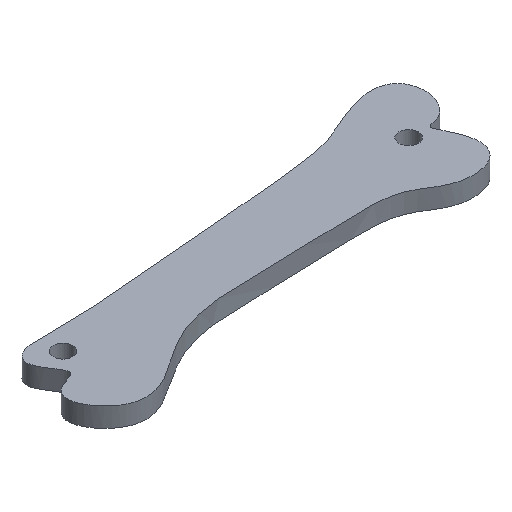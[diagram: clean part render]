
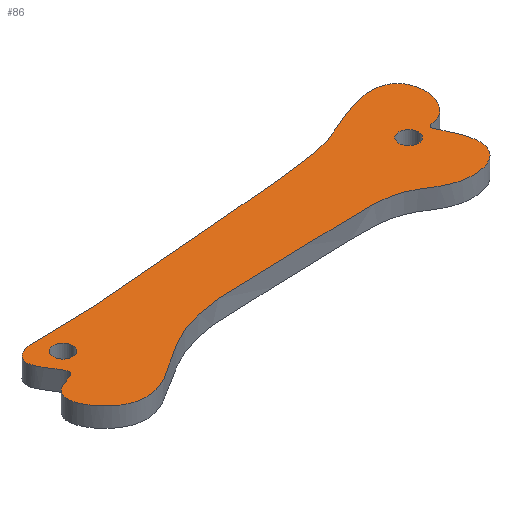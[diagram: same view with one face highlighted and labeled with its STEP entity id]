
A CAD part, isometric view. The second image highlights one B-rep face of the part: STEP entity #86.
In plain terms, the highlighted planar face has unit normal (0, 0, 1).
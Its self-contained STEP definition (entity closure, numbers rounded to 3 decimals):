
#15=FACE_BOUND('',#33,.T.);
#16=FACE_BOUND('',#34,.T.);
#19=PLANE('',#108);
#22=(
BOUNDED_CURVE()
B_SPLINE_CURVE(5,(#417,#418,#419,#420,#421,#422,#423,#424,#425,#426,#427,
#428,#429,#430,#431,#432,#433,#434,#435,#436,#437,#438,#439,#440,#441,#442,
#443,#444,#445,#446,#447,#448,#449,#450,#451,#452,#453,#454,#455,#456,#457,
#458,#459,#460,#461,#462,#463,#464,#465,#466,#467,#468,#469,#470,#471,#472,
#473,#474,#475,#476,#477,#478,#479,#480,#481,#482,#483,#484,#485,#486,#487,
#488,#489,#490,#491,#492,#493,#494,#495,#496,#497,#498,#499,#500,#501,#502,
#503,#504,#505,#506),.UNSPECIFIED.,.T.,.F.)
B_SPLINE_CURVE_WITH_KNOTS((6,1,1,1,1,1,1,1,1,1,1,1,1,1,1,1,1,1,1,1,1,1,
1,1,1,1,1,1,1,1,1,1,1,1,1,1,1,1,1,1,1,1,1,1,1,1,1,1,1,1,1,1,1,1,1,1,1,1,
1,1,1,1,1,1,1,1,1,1,1,1,1,1,1,1,1,1,1,1,1,1,1,1,1,1,1,6),(-1.,-0.988,
-0.976,-0.965,-0.953,-0.941,
-0.929,-0.918,-0.906,-0.894,
-0.882,-0.871,-0.859,-0.847,
-0.835,-0.824,-0.812,-0.8,
-0.788,-0.776,-0.765,-0.753,
-0.741,-0.729,-0.718,-0.706,
-0.694,-0.682,-0.671,-0.659,
-0.647,-0.635,-0.624,-0.612,
-0.6,-0.588,-0.576,-0.565,-0.553,
-0.541,-0.529,-0.518,-0.506,
-0.494,-0.482,-0.471,-0.459,
-0.447,-0.435,-0.424,-0.412,
-0.4,-0.388,-0.376,-0.365,-0.353,
-0.341,-0.329,-0.318,-0.306,
-0.294,-0.282,-0.271,-0.259,
-0.247,-0.235,-0.224,-0.212,
-0.2,-0.188,-0.176,-0.165,-0.153,
-0.141,-0.129,-0.118,-0.106,
-0.094,-0.082,-0.071,-0.059,
-0.047,-0.035,-0.024,-0.012,
0.),.UNSPECIFIED.)
CURVE()
GEOMETRIC_REPRESENTATION_ITEM()
RATIONAL_B_SPLINE_CURVE((1.,1.,1.,1.,1.,1.,1.,1.,1.,1.,1.,1.,1.,1.,1.,1.,
1.,1.,1.,1.,1.,1.,1.,1.,1.,1.,1.,1.,1.,1.,1.,1.,1.,1.,1.,1.,1.,1.,1.,1.,
1.,1.,1.,1.,1.,1.,1.,1.,1.,1.,1.,1.,1.,1.,1.,1.,1.,1.,1.,1.,1.,1.,1.,1.,
1.,1.,1.,1.,1.,1.,1.,1.,1.,1.,1.,1.,1.,1.,1.,1.,1.,1.,1.,1.,1.,1.,1.,1.,
1.,1.))
REPRESENTATION_ITEM('')
);
#27=FACE_OUTER_BOUND('',#32,.T.);
#32=EDGE_LOOP('',(#75));
#33=EDGE_LOOP('',(#76));
#34=EDGE_LOOP('',(#77));
#44=CIRCLE('',#103,0.75);
#46=CIRCLE('',#106,0.75);
#48=VERTEX_POINT('',#133);
#50=VERTEX_POINT('',#139);
#53=VERTEX_POINT('',#415);
#54=EDGE_CURVE('',#48,#48,#44,.T.);
#57=EDGE_CURVE('',#50,#50,#46,.T.);
#62=EDGE_CURVE('',#53,#53,#22,.T.);
#75=ORIENTED_EDGE('',*,*,#62,.T.);
#76=ORIENTED_EDGE('',*,*,#57,.T.);
#77=ORIENTED_EDGE('',*,*,#54,.T.);
#86=ADVANCED_FACE('',(#27,#15,#16),#19,.T.);
#103=AXIS2_PLACEMENT_3D('',#134,#114,#115);
#106=AXIS2_PLACEMENT_3D('',#140,#121,#122);
#108=AXIS2_PLACEMENT_3D('',#507,#127,#128);
#114=DIRECTION('center_axis',(0.,0.,-1.));
#115=DIRECTION('ref_axis',(1.,0.,0.));
#121=DIRECTION('center_axis',(0.,0.,-1.));
#122=DIRECTION('ref_axis',(1.,0.,0.));
#127=DIRECTION('center_axis',(0.,0.,1.));
#128=DIRECTION('ref_axis',(1.,0.,0.));
#133=CARTESIAN_POINT('',(94.376,-12.246,1.5));
#134=CARTESIAN_POINT('Origin',(95.126,-12.246,1.5));
#139=CARTESIAN_POINT('',(66.849,-13.176,1.5));
#140=CARTESIAN_POINT('Origin',(67.599,-13.176,1.5));
#415=CARTESIAN_POINT('',(66.432,-14.952,1.5));
#417=CARTESIAN_POINT('Ctrl Pts',(66.432,-14.952,1.5));
#418=CARTESIAN_POINT('Ctrl Pts',(66.397,-15.005,1.5));
#419=CARTESIAN_POINT('Ctrl Pts',(66.291,-15.098,1.5));
#420=CARTESIAN_POINT('Ctrl Pts',(66.031,-15.203,1.5));
#421=CARTESIAN_POINT('Ctrl Pts',(65.534,-15.325,1.5));
#422=CARTESIAN_POINT('Ctrl Pts',(64.913,-15.599,1.5));
#423=CARTESIAN_POINT('Ctrl Pts',(64.542,-16.116,1.5));
#424=CARTESIAN_POINT('Ctrl Pts',(64.547,-16.871,1.5));
#425=CARTESIAN_POINT('Ctrl Pts',(64.926,-17.748,1.5));
#426=CARTESIAN_POINT('Ctrl Pts',(65.606,-18.582,1.5));
#427=CARTESIAN_POINT('Ctrl Pts',(66.475,-19.207,1.5));
#428=CARTESIAN_POINT('Ctrl Pts',(67.429,-19.502,1.5));
#429=CARTESIAN_POINT('Ctrl Pts',(68.405,-19.444,1.5));
#430=CARTESIAN_POINT('Ctrl Pts',(69.376,-19.079,1.5));
#431=CARTESIAN_POINT('Ctrl Pts',(70.338,-18.497,1.5));
#432=CARTESIAN_POINT('Ctrl Pts',(71.309,-17.812,1.5));
#433=CARTESIAN_POINT('Ctrl Pts',(72.311,-17.136,1.5));
#434=CARTESIAN_POINT('Ctrl Pts',(73.371,-16.555,1.5));
#435=CARTESIAN_POINT('Ctrl Pts',(74.508,-16.11,1.5));
#436=CARTESIAN_POINT('Ctrl Pts',(75.734,-15.808,1.5));
#437=CARTESIAN_POINT('Ctrl Pts',(77.056,-15.632,1.5));
#438=CARTESIAN_POINT('Ctrl Pts',(78.471,-15.549,1.5));
#439=CARTESIAN_POINT('Ctrl Pts',(79.969,-15.517,1.5));
#440=CARTESIAN_POINT('Ctrl Pts',(81.53,-15.499,1.5));
#441=CARTESIAN_POINT('Ctrl Pts',(83.124,-15.464,1.5));
#442=CARTESIAN_POINT('Ctrl Pts',(84.711,-15.406,1.5));
#443=CARTESIAN_POINT('Ctrl Pts',(86.24,-15.337,1.5));
#444=CARTESIAN_POINT('Ctrl Pts',(87.663,-15.285,1.5));
#445=CARTESIAN_POINT('Ctrl Pts',(88.935,-15.281,1.5));
#446=CARTESIAN_POINT('Ctrl Pts',(90.028,-15.356,1.5));
#447=CARTESIAN_POINT('Ctrl Pts',(90.932,-15.531,1.5));
#448=CARTESIAN_POINT('Ctrl Pts',(91.666,-15.811,1.5));
#449=CARTESIAN_POINT('Ctrl Pts',(92.283,-16.175,1.5));
#450=CARTESIAN_POINT('Ctrl Pts',(92.875,-16.573,1.5));
#451=CARTESIAN_POINT('Ctrl Pts',(93.531,-16.939,1.5));
#452=CARTESIAN_POINT('Ctrl Pts',(94.313,-17.201,1.5));
#453=CARTESIAN_POINT('Ctrl Pts',(95.222,-17.291,1.5));
#454=CARTESIAN_POINT('Ctrl Pts',(96.16,-17.154,1.5));
#455=CARTESIAN_POINT('Ctrl Pts',(96.973,-16.761,1.5));
#456=CARTESIAN_POINT('Ctrl Pts',(97.51,-16.115,1.5));
#457=CARTESIAN_POINT('Ctrl Pts',(97.672,-15.265,1.5));
#458=CARTESIAN_POINT('Ctrl Pts',(97.478,-14.314,1.5));
#459=CARTESIAN_POINT('Ctrl Pts',(97.089,-13.42,1.5));
#460=CARTESIAN_POINT('Ctrl Pts',(96.722,-12.73,1.5));
#461=CARTESIAN_POINT('Ctrl Pts',(96.58,-12.335,1.5));
#462=CARTESIAN_POINT('Ctrl Pts',(96.776,-12.211,1.5));
#463=CARTESIAN_POINT('Ctrl Pts',(97.257,-12.163,1.5));
#464=CARTESIAN_POINT('Ctrl Pts',(97.868,-11.941,1.5));
#465=CARTESIAN_POINT('Ctrl Pts',(98.433,-11.395,1.5));
#466=CARTESIAN_POINT('Ctrl Pts',(98.821,-10.565,1.5));
#467=CARTESIAN_POINT('Ctrl Pts',(98.94,-9.599,1.5));
#468=CARTESIAN_POINT('Ctrl Pts',(98.744,-8.691,1.5));
#469=CARTESIAN_POINT('Ctrl Pts',(98.234,-8.019,1.5));
#470=CARTESIAN_POINT('Ctrl Pts',(97.465,-7.665,1.5));
#471=CARTESIAN_POINT('Ctrl Pts',(96.531,-7.616,1.5));
#472=CARTESIAN_POINT('Ctrl Pts',(95.538,-7.805,1.5));
#473=CARTESIAN_POINT('Ctrl Pts',(94.579,-8.135,1.5));
#474=CARTESIAN_POINT('Ctrl Pts',(93.714,-8.511,1.5));
#475=CARTESIAN_POINT('Ctrl Pts',(92.941,-8.869,1.5));
#476=CARTESIAN_POINT('Ctrl Pts',(92.204,-9.179,1.5));
#477=CARTESIAN_POINT('Ctrl Pts',(91.421,-9.434,1.5));
#478=CARTESIAN_POINT('Ctrl Pts',(90.504,-9.643,1.5));
#479=CARTESIAN_POINT('Ctrl Pts',(89.379,-9.822,1.5));
#480=CARTESIAN_POINT('Ctrl Pts',(88.011,-9.986,1.5));
#481=CARTESIAN_POINT('Ctrl Pts',(86.41,-10.143,1.5));
#482=CARTESIAN_POINT('Ctrl Pts',(84.617,-10.3,1.5));
#483=CARTESIAN_POINT('Ctrl Pts',(82.695,-10.459,1.5));
#484=CARTESIAN_POINT('Ctrl Pts',(80.722,-10.62,1.5));
#485=CARTESIAN_POINT('Ctrl Pts',(78.781,-10.78,1.5));
#486=CARTESIAN_POINT('Ctrl Pts',(76.949,-10.934,1.5));
#487=CARTESIAN_POINT('Ctrl Pts',(75.293,-11.077,1.5));
#488=CARTESIAN_POINT('Ctrl Pts',(73.853,-11.204,1.5));
#489=CARTESIAN_POINT('Ctrl Pts',(72.64,-11.306,1.5));
#490=CARTESIAN_POINT('Ctrl Pts',(71.622,-11.379,1.5));
#491=CARTESIAN_POINT('Ctrl Pts',(70.742,-11.419,1.5));
#492=CARTESIAN_POINT('Ctrl Pts',(69.932,-11.426,1.5));
#493=CARTESIAN_POINT('Ctrl Pts',(69.135,-11.411,1.5));
#494=CARTESIAN_POINT('Ctrl Pts',(68.318,-11.39,1.5));
#495=CARTESIAN_POINT('Ctrl Pts',(67.49,-11.395,1.5));
#496=CARTESIAN_POINT('Ctrl Pts',(66.707,-11.465,1.5));
#497=CARTESIAN_POINT('Ctrl Pts',(66.044,-11.64,1.5));
#498=CARTESIAN_POINT('Ctrl Pts',(65.58,-11.946,1.5));
#499=CARTESIAN_POINT('Ctrl Pts',(65.374,-12.387,1.5));
#500=CARTESIAN_POINT('Ctrl Pts',(65.448,-12.939,1.5));
#501=CARTESIAN_POINT('Ctrl Pts',(65.763,-13.552,1.5));
#502=CARTESIAN_POINT('Ctrl Pts',(66.191,-14.154,1.5));
#503=CARTESIAN_POINT('Ctrl Pts',(66.448,-14.553,1.5));
#504=CARTESIAN_POINT('Ctrl Pts',(66.503,-14.779,1.5));
#505=CARTESIAN_POINT('Ctrl Pts',(66.468,-14.899,1.5));
#506=CARTESIAN_POINT('Ctrl Pts',(66.432,-14.952,1.5));
#507=CARTESIAN_POINT('Origin',(81.741,-13.559,1.5));
